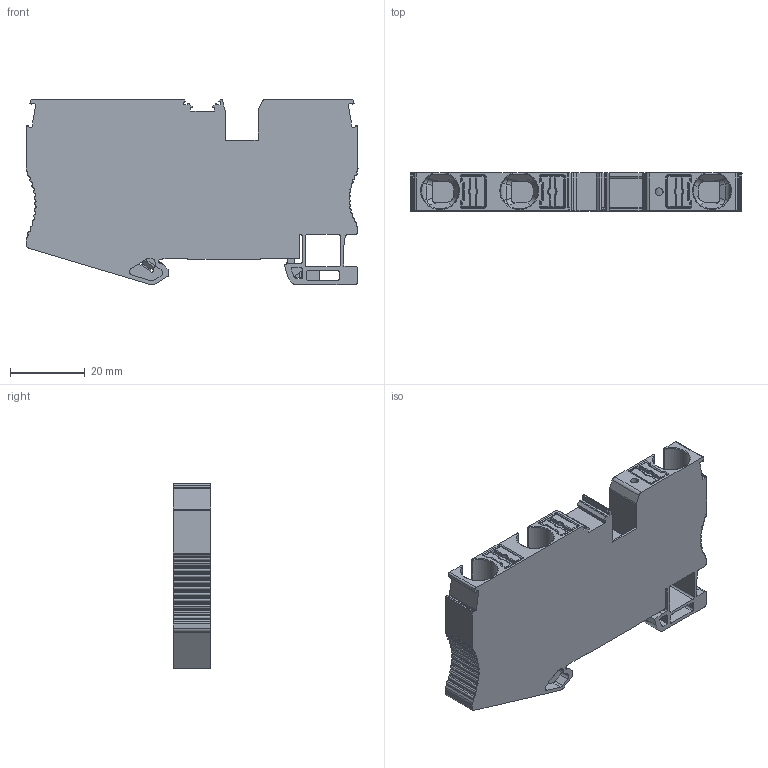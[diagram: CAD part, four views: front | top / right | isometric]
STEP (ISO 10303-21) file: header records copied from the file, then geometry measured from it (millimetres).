
FILE_DESCRIPTION((''),'2;1');
FILE_NAME('UPT-10-1-2PE_ASSY','2024-03-29T16:25:33',('Administrator'),(''),'CREO PARAMETRIC BY PTC INC, 2018050','CREO PARAMETRIC BY PTC INC, 2018050','');
FILE_SCHEMA(('CONFIG_CONTROL_DESIGN'));
Length unit declared in the file: millimetre
Products named in the file (1): UPT-10-1-2PE_ASSY
Bounding box: 88.9 x 10.15 x 49.55 mm (x, y, z)
Volume: 31796.5 mm3; surface area: 15805.1 mm2
Topology: 1 solids, 2 shells, 1193 faces, 3392 edges, 2162 vertices
Faces by surface type: plane 536, cylinder 486, sphere 49, cone 42, torus 38, extrusion 24, bspline 18
Entity records: 40443 total; most frequent: CARTESIAN_POINT 9406, ORIENTED_EDGE 6686, DIRECTION 6403, EDGE_CURVE 3343, AXIS2_PLACEMENT_3D 2184, VERTEX_POINT 2162, VECTOR 2035, LINE 2011
